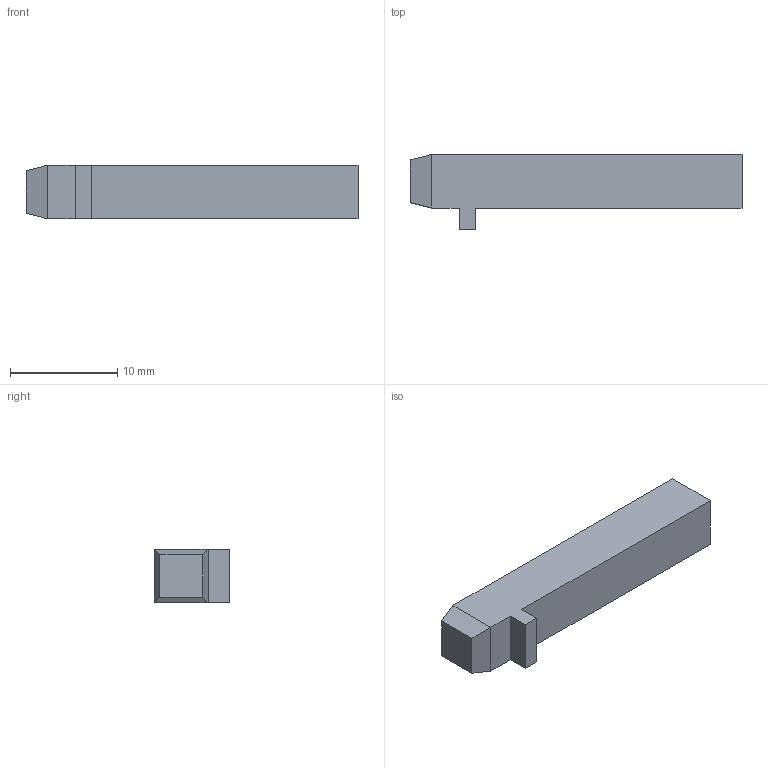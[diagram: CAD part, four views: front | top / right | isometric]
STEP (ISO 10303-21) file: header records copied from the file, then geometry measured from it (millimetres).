
FILE_DESCRIPTION(/* description */ ('STEP AP242 Edition 2','CAx-IF Rec.Pracs.---Representation and Presentation of Product Manufacturing Information (PMI)---4.0---2014-10-13','CAx-IF Rec.Pracs.---3D Tessellated Geometry---0.4---2014-09-14','2;1','CAx-IF Rec.Pracs.---User Defined Attributes---1.5---2016-08-15'),/* implementation_level */ '2;1');
FILE_NAME(/* name */ 'Controller - Button2',/* time_stamp */ '2026-04-22T00:25:01Z',/* author */ (''),/* organization */ (''),/* preprocessor_version */ 'ST-DEVELOPER v20',/* originating_system */ 'ONSHAPE BY PTC INC, 1.213',/* authorisation */ ' ');
FILE_SCHEMA (('AP242_MANAGED_MODEL_BASED_3D_ENGINEERING_MIM_LF { 1 0 10303 442 3 1 4 }'));
Length unit declared in the file: metre
Products named in the file (1): Button2
Bounding box: 31 x 7 x 5 mm (x, y, z)
Volume: 780.7 mm3; surface area: 684.1 mm2
Topology: 1 solids, 1 shells, 14 faces, 32 edges, 20 vertices
Faces by surface type: plane 14
Entity records: 406 total; most frequent: CARTESIAN_POINT 67, ORIENTED_EDGE 64, DIRECTION 62, EDGE_CURVE 32, LINE 32, VECTOR 32, VERTEX_POINT 20, AXIS2_PLACEMENT_3D 15
